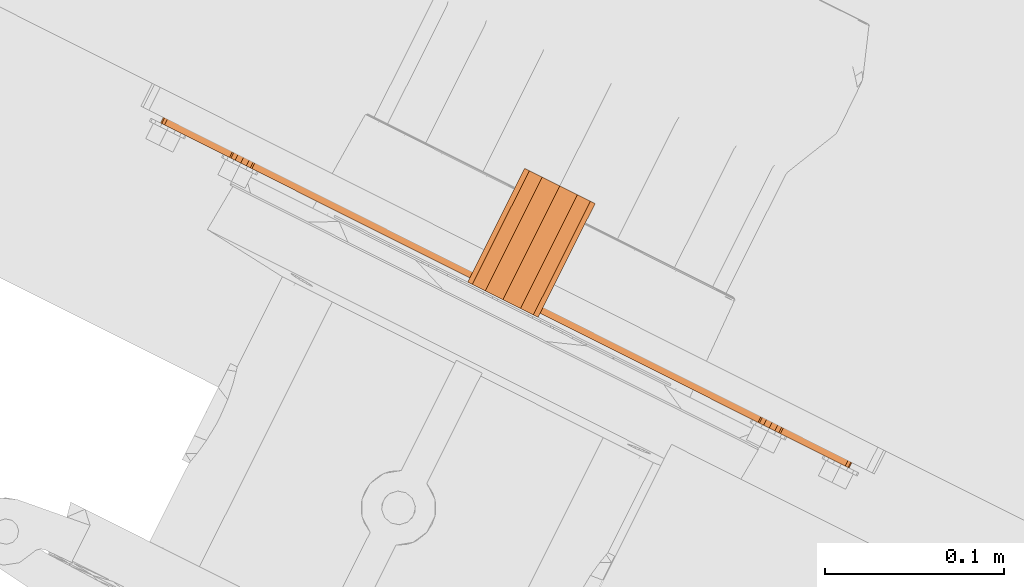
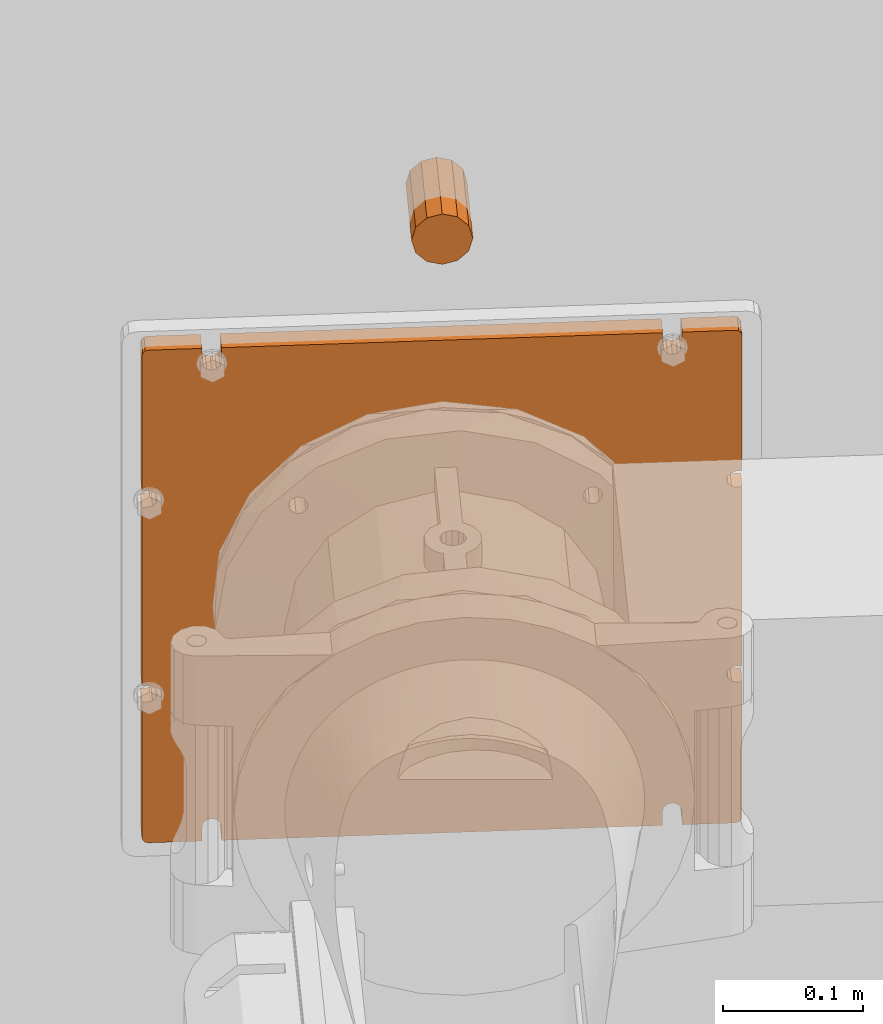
# One storey, part 190 of 206: 2 proxies.
"""IFC2X3 building model written with IfcOpenShell, lengths in metres."""

from ifc_helpers import new_model, si_unit, derived_unit, direction, frame, origin, place, context, subcontext, project, spatial, faceted_brep, source, transform, mapped, material, type_object, type_shapes, element, save


model = new_model("IFC2X3")

# Units and contexts
model_context = context("Model", 3, precision=5.2338327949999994e-05, world=origin(), true_north=direction((0.0, 1.0)))
body_context = subcontext(model_context, "Body", "Model", "MODEL_VIEW")
ifc_project = project(units=[si_unit("LENGTHUNIT", "METRE"), si_unit("AREAUNIT", "SQUARE_METRE"), si_unit("VOLUMEUNIT", "CUBIC_METRE"), si_unit("MASSUNIT", "GRAM", prefix="KILO"), si_unit("PLANEANGLEUNIT", "RADIAN"), derived_unit("THERMALTRANSMITTANCEUNIT", [(si_unit("MASSUNIT", "GRAM", prefix="KILO"), 1), (si_unit("THERMODYNAMICTEMPERATUREUNIT", "KELVIN"), -1), (si_unit("TIMEUNIT", "SECOND"), -3)])], contexts=[model_context])

# Site, building, storey
site_placement = place(None, frame((0.0, 0.0, 0.0), z_axis=(0.0, 0.0, 1.0), x_axis=(0.8939966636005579, -0.4480736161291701, 0.0)))
site = spatial("IfcSite", under=ifc_project, at=site_placement, Name="Default", CompositionType="ELEMENT")
building_placement = place(site_placement, origin())
building = spatial("IfcBuilding", under=site, at=building_placement, CompositionType="ELEMENT")
storey_placement = place(building_placement, origin())
storey = spatial("IfcBuildingStorey", under=building, at=storey_placement, Name="Erdgeschoss", CompositionType="ELEMENT", Elevation=0.0)

# Proxies
ifc_material = material(Name="IfcSurfaceStyle #624876")
building_element_proxy_type_1 = type_object("IfcBuildingElementProxyType", Name="BuildingElementProxy 115:BuildingElementProxy 115", PredefinedType="NOTDEFINED", material=ifc_material)
shared_shape_1 = source(origin(), body_context, "Body", "Brep", [
    faceted_brep([(21.650947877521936, 4.96053537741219, 1.0849999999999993), (21.653447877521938, 4.960535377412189, 1.0843301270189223), (21.650947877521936, 4.969371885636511, 1.084999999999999), (21.653447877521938, 4.978208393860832, 1.084330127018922), (21.650947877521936, 4.978208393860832, 1.0849999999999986), (21.65527800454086, 4.960535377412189, 1.0824999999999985), (21.655278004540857, 4.978208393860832, 1.0825000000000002), (21.655947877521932, 4.96053537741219, 1.08), (21.655947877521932, 4.969371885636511, 1.08), (21.655947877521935, 4.978208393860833, 1.0799999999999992), (21.65594787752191, 4.96053537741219, 0.9620000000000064), (21.65594787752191, 4.9693718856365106, 0.9620000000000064), (21.65594787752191, 4.978208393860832, 0.9620000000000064), (21.651774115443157, 4.96053537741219, 0.9620000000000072), (21.651774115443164, 4.9693718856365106, 0.962000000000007), (21.651774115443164, 4.978208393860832, 0.9620000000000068), (21.648274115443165, 4.96053537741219, 0.961062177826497), (21.648274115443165, 4.978208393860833, 0.9610621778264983), (21.64571193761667, 4.96053537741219, 0.9585000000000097), (21.645711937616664, 4.978208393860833, 0.9585000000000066), (21.64477411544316, 4.96053537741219, 0.955000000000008), (21.64477411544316, 4.978208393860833, 0.9550000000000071), (21.64571193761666, 4.96053537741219, 0.951500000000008), (21.645711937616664, 4.978208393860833, 0.9515000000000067), (21.648274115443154, 4.96053537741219, 0.9489378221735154), (21.648274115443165, 4.978208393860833, 0.9489378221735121), (21.651774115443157, 4.96053537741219, 0.9480000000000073), (21.651774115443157, 4.9693718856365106, 0.9480000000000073), (21.651774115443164, 4.978208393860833, 0.9480000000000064), (21.655947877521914, 4.96053537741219, 0.9480000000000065), (21.655947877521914, 4.969371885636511, 0.9480000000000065), (21.655947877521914, 4.978208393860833, 0.9480000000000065), (21.65594787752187, 4.96053537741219, 0.7920000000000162), (21.65594787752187, 4.9693718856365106, 0.7920000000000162), (21.655947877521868, 4.978208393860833, 0.7920000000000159), (21.65177411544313, 4.96053537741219, 0.7920000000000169), (21.65177411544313, 4.9693718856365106, 0.7920000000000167), (21.65177411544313, 4.978208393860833, 0.7920000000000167), (21.64827411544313, 4.96053537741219, 0.7910621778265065), (21.648274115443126, 4.978208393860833, 0.7910621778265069), (21.645711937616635, 4.96053537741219, 0.7885000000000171), (21.645711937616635, 4.978208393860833, 0.7885000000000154), (21.644774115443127, 4.96053537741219, 0.785000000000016), (21.644774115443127, 4.978208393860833, 0.7850000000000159), (21.645711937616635, 4.96053537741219, 0.7815000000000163), (21.645711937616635, 4.978208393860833, 0.7815000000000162), (21.648274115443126, 4.96053537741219, 0.7789378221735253), (21.648274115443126, 4.978208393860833, 0.7789378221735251), (21.65177411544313, 4.96053537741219, 0.7780000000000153), (21.65177411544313, 4.969371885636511, 0.7780000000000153), (21.651774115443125, 4.978208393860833, 0.7780000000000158), (21.65594787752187, 4.96053537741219, 0.7780000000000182), (21.65594787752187, 4.9693718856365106, 0.7780000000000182), (21.65594787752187, 4.978208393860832, 0.7780000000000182), (21.65594787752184, 4.960535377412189, 0.6600000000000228), (21.65594787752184, 4.969371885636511, 0.6600000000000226), (21.65594787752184, 4.978208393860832, 0.6600000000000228), (21.655278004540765, 4.960535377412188, 0.6575000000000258), (21.655278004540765, 4.978208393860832, 0.6575000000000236), (21.653447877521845, 4.96053537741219, 0.6556698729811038), (21.653447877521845, 4.978208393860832, 0.6556698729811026), (21.650947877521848, 4.96053537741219, 0.6550000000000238), (21.650947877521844, 4.969371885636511, 0.6550000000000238), (21.650947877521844, 4.978208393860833, 0.6550000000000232), (21.612947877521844, 4.960535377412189, 0.6550000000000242), (21.612947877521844, 4.969371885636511, 0.6550000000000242), (21.612947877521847, 4.978208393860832, 0.6550000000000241), (21.61294787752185, 4.96053537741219, 0.6671737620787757), (21.61294787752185, 4.969371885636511, 0.6671737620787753), (21.61294787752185, 4.978208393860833, 0.6671737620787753), (21.612010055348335, 4.96053537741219, 0.6706737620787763), (21.612010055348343, 4.978208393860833, 0.6706737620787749), (21.609447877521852, 4.96053537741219, 0.6732359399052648), (21.60944787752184, 4.978208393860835, 0.673235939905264), (21.605947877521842, 4.960535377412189, 0.6741737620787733), (21.605947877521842, 4.978208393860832, 0.6741737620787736), (21.602447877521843, 4.96053537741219, 0.6732359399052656), (21.60244787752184, 4.978208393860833, 0.673235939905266), (21.59988569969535, 4.96053537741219, 0.6706737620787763), (21.599885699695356, 4.978208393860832, 0.670673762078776), (21.59894787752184, 4.96053537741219, 0.6671737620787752), (21.59894787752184, 4.9693718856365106, 0.6671737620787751), (21.598947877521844, 4.978208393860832, 0.6671737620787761), (21.598947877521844, 4.960535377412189, 0.6550000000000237), (21.598947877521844, 4.969371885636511, 0.655000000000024), (21.598947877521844, 4.978208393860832, 0.6550000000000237), (21.282947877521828, 4.960535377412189, 0.655000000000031), (21.28294787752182, 4.9693718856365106, 0.6550000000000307), (21.282947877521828, 4.978208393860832, 0.6550000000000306), (21.282947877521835, 4.960535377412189, 0.6671737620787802), (21.282947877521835, 4.969371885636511, 0.6671737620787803), (21.282947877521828, 4.978208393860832, 0.6671737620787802), (21.282010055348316, 4.96053537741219, 0.670673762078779), (21.282010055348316, 4.978208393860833, 0.67067376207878), (21.27944787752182, 4.96053537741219, 0.6732359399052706), (21.27944787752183, 4.978208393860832, 0.6732359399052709), (21.275947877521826, 4.960535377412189, 0.6741737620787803), (21.275947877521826, 4.978208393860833, 0.674173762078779), (21.272447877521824, 4.960535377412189, 0.6732359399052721), (21.272447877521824, 4.978208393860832, 0.6732359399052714), (21.269885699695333, 4.96053537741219, 0.67067376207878), (21.269885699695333, 4.978208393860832, 0.6706737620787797), (21.268947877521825, 4.96053537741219, 0.6671737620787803), (21.268947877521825, 4.9693718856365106, 0.6671737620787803), (21.268947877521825, 4.978208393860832, 0.6671737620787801), (21.268947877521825, 4.96053537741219, 0.6550000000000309), (21.268947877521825, 4.9693718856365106, 0.6550000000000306), (21.268947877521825, 4.978208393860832, 0.6550000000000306), (21.23094787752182, 4.960535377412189, 0.65500000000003), (21.23094787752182, 4.9693718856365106, 0.65500000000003), (21.23094787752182, 4.978208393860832, 0.6550000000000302), (21.228447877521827, 4.96053537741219, 0.6556698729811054), (21.228447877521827, 4.978208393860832, 0.6556698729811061), (21.226617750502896, 4.960535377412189, 0.6575000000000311), (21.226617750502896, 4.978208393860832, 0.6575000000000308), (21.225947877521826, 4.96053537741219, 0.6600000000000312), (21.225947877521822, 4.9693718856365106, 0.6600000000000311), (21.225947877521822, 4.978208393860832, 0.6600000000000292), (21.225947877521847, 4.96053537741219, 0.778000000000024), (21.225947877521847, 4.969371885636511, 0.7780000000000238), (21.225947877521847, 4.978208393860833, 0.7780000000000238), (21.230121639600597, 4.960535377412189, 0.7780000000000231), (21.2301216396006, 4.9693718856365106, 0.7780000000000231), (21.2301216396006, 4.978208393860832, 0.7780000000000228), (21.2336216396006, 4.96053537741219, 0.7789378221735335), (21.233621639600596, 4.978208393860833, 0.7789378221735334), (21.236183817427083, 4.96053537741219, 0.7815000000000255), (21.236183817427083, 4.978208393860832, 0.7815000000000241), (21.2371216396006, 4.96053537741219, 0.7850000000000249), (21.2371216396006, 4.978208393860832, 0.7850000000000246), (21.23618381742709, 4.960535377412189, 0.7885000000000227), (21.236183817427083, 4.978208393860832, 0.7885000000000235), (21.23362163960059, 4.960535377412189, 0.7910621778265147), (21.233621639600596, 4.978208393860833, 0.791062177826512), (21.23012163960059, 4.960535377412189, 0.7920000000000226), (21.230121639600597, 4.969371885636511, 0.7920000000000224), (21.230121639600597, 4.978208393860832, 0.7920000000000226), (21.225947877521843, 4.960535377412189, 0.7920000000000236), (21.225947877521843, 4.969371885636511, 0.7920000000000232), (21.225947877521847, 4.978208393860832, 0.7920000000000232), (21.225947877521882, 4.960535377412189, 0.9480000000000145), (21.225947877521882, 4.969371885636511, 0.9480000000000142), (21.225947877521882, 4.978208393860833, 0.948000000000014), (21.23012163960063, 4.96053537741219, 0.9480000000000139), (21.23012163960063, 4.9693718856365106, 0.9480000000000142), (21.23012163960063, 4.978208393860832, 0.948000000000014), (21.233621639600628, 4.96053537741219, 0.9489378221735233), (21.233621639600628, 4.978208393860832, 0.9489378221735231), (21.23618381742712, 4.96053537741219, 0.9515000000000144), (21.23618381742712, 4.978208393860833, 0.9515000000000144), (21.237121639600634, 4.960535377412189, 0.955000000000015), (21.237121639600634, 4.978208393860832, 0.9550000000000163), (21.23618381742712, 4.96053537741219, 0.9585000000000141), (21.23618381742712, 4.978208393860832, 0.9585000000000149), (21.233621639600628, 4.960535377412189, 0.9610621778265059), (21.233621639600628, 4.978208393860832, 0.9610621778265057), (21.230121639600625, 4.960535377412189, 0.9620000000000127), (21.230121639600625, 4.9693718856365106, 0.9620000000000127), (21.230121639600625, 4.978208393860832, 0.9620000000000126), (21.225947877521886, 4.960535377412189, 0.9620000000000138), (21.225947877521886, 4.9693718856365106, 0.9620000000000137), (21.225947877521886, 4.978208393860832, 0.9620000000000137), (21.225947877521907, 4.96053537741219, 1.0800000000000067), (21.225947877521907, 4.9693718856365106, 1.0800000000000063), (21.225947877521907, 4.978208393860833, 1.0800000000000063), (21.226617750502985, 4.96053537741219, 1.0825000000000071), (21.22661775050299, 4.978208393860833, 1.082500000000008), (21.228447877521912, 4.960535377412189, 1.0843301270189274), (21.228447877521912, 4.978208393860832, 1.0843301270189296), (21.230947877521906, 4.960535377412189, 1.0850000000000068), (21.230947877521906, 4.9693718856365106, 1.0850000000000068), (21.230947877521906, 4.978208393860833, 1.0850000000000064), (21.268947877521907, 4.96053537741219, 1.085000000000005), (21.26894787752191, 4.9693718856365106, 1.0850000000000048), (21.26894787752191, 4.978208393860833, 1.085000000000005), (21.268947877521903, 4.960535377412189, 1.072826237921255), (21.268947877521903, 4.9693718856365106, 1.0728262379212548), (21.268947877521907, 4.978208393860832, 1.0728262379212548), (21.269885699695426, 4.96053537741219, 1.0693262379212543), (21.269885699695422, 4.978208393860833, 1.0693262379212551), (21.272447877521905, 4.960535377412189, 1.0667640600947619), (21.272447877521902, 4.978208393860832, 1.066764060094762), (21.27594787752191, 4.96053537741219, 1.0658262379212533), (21.27594787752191, 4.978208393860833, 1.0658262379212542), (21.279447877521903, 4.960535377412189, 1.0667640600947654), (21.27944787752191, 4.978208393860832, 1.0667640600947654), (21.282010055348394, 4.96053537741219, 1.0693262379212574), (21.282010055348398, 4.978208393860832, 1.0693262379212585), (21.282947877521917, 4.96053537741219, 1.0728262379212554), (21.28294787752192, 4.9693718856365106, 1.0728262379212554), (21.282947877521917, 4.978208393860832, 1.0728262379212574), (21.282947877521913, 4.96053537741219, 1.085000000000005), (21.282947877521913, 4.9693718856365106, 1.085000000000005), (21.282947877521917, 4.978208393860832, 1.0850000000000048), (21.59894787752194, 4.96053537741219, 1.0850000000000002), (21.59894787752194, 4.969371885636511, 1.0849999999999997), (21.59894787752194, 4.978208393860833, 1.0849999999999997), (21.598947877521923, 4.960535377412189, 1.0728262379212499), (21.598947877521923, 4.9693718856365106, 1.0728262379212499), (21.598947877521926, 4.978208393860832, 1.0728262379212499), (21.599885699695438, 4.96053537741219, 1.0693262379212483), (21.599885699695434, 4.978208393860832, 1.0693262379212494), (21.60244787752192, 4.96053537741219, 1.0667640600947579), (21.602447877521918, 4.978208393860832, 1.0667640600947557), (21.605947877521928, 4.960535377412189, 1.0658262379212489), (21.605947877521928, 4.978208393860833, 1.0658262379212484), (21.609447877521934, 4.96053537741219, 1.0667640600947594), (21.60944787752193, 4.978208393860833, 1.0667640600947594), (21.61201005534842, 4.96053537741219, 1.0693262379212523), (21.61201005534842, 4.978208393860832, 1.069326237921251), (21.61294787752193, 4.96053537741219, 1.0728262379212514), (21.61294787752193, 4.969371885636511, 1.0728262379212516), (21.61294787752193, 4.978208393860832, 1.0728262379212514), (21.61294787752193, 4.96053537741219, 1.0850000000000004), (21.61294787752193, 4.969371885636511, 1.0850000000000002), (21.61294787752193, 4.978208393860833, 1.0850000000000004)], [[[0, 1, 2]], [[2, 1, 3]], [[2, 3, 4]], [[1, 5, 3]], [[3, 5, 6]], [[7, 8, 5]], [[5, 8, 6]], [[8, 9, 6]], [[10, 11, 7]], [[7, 11, 8]], [[11, 12, 8]], [[8, 12, 9]], [[13, 14, 10]], [[10, 14, 11]], [[14, 15, 11]], [[11, 15, 12]], [[13, 16, 14]], [[14, 16, 17]], [[14, 17, 15]], [[16, 18, 17]], [[17, 18, 19]], [[18, 20, 19]], [[19, 20, 21]], [[20, 22, 21]], [[21, 22, 23]], [[22, 24, 23]], [[23, 24, 25]], [[26, 27, 24]], [[24, 27, 25]], [[27, 28, 25]], [[29, 30, 26]], [[26, 30, 27]], [[30, 31, 27]], [[27, 31, 28]], [[32, 33, 29]], [[29, 33, 30]], [[33, 34, 30]], [[30, 34, 31]], [[35, 36, 32]], [[32, 36, 33]], [[36, 37, 33]], [[33, 37, 34]], [[35, 38, 36]], [[36, 38, 39]], [[36, 39, 37]], [[38, 40, 39]], [[39, 40, 41]], [[40, 42, 41]], [[41, 42, 43]], [[42, 44, 43]], [[43, 44, 45]], [[44, 46, 45]], [[45, 46, 47]], [[48, 49, 46]], [[46, 49, 47]], [[49, 50, 47]], [[51, 52, 48]], [[48, 52, 49]], [[52, 53, 49]], [[49, 53, 50]], [[54, 55, 51]], [[51, 55, 52]], [[55, 56, 52]], [[52, 56, 53]], [[54, 57, 55]], [[55, 57, 58]], [[55, 58, 56]], [[57, 59, 58]], [[58, 59, 60]], [[61, 62, 59]], [[59, 62, 60]], [[62, 63, 60]], [[64, 65, 61]], [[61, 65, 62]], [[65, 66, 62]], [[62, 66, 63]], [[67, 68, 64]], [[64, 68, 65]], [[68, 69, 65]], [[65, 69, 66]], [[67, 70, 68]], [[68, 70, 71]], [[68, 71, 69]], [[70, 72, 71]], [[71, 72, 73]], [[72, 74, 73]], [[73, 74, 75]], [[74, 76, 75]], [[75, 76, 77]], [[76, 78, 77]], [[77, 78, 79]], [[80, 81, 78]], [[78, 81, 79]], [[81, 82, 79]], [[83, 84, 80]], [[80, 84, 81]], [[84, 85, 81]], [[81, 85, 82]], [[86, 87, 83]], [[83, 87, 84]], [[87, 88, 84]], [[84, 88, 85]], [[89, 90, 86]], [[86, 90, 87]], [[90, 91, 87]], [[87, 91, 88]], [[89, 92, 90]], [[90, 92, 93]], [[90, 93, 91]], [[92, 94, 93]], [[93, 94, 95]], [[94, 96, 95]], [[95, 96, 97]], [[96, 98, 97]], [[97, 98, 99]], [[98, 100, 99]], [[99, 100, 101]], [[102, 103, 100]], [[100, 103, 101]], [[103, 104, 101]], [[105, 106, 102]], [[102, 106, 103]], [[106, 107, 103]], [[103, 107, 104]], [[108, 109, 105]], [[105, 109, 106]], [[109, 110, 106]], [[106, 110, 107]], [[108, 111, 109]], [[109, 111, 112]], [[109, 112, 110]], [[111, 113, 112]], [[112, 113, 114]], [[115, 116, 113]], [[113, 116, 114]], [[116, 117, 114]], [[118, 119, 115]], [[115, 119, 116]], [[119, 120, 116]], [[116, 120, 117]], [[121, 122, 118]], [[118, 122, 119]], [[122, 123, 119]], [[119, 123, 120]], [[121, 124, 122]], [[122, 124, 125]], [[122, 125, 123]], [[124, 126, 125]], [[125, 126, 127]], [[126, 128, 127]], [[127, 128, 129]], [[128, 130, 129]], [[129, 130, 131]], [[130, 132, 131]], [[131, 132, 133]], [[134, 135, 132]], [[132, 135, 133]], [[135, 136, 133]], [[137, 138, 134]], [[134, 138, 135]], [[138, 139, 135]], [[135, 139, 136]], [[140, 141, 137]], [[137, 141, 138]], [[141, 142, 138]], [[138, 142, 139]], [[143, 144, 140]], [[140, 144, 141]], [[144, 145, 141]], [[141, 145, 142]], [[143, 146, 144]], [[144, 146, 147]], [[144, 147, 145]], [[146, 148, 147]], [[147, 148, 149]], [[148, 150, 149]], [[149, 150, 151]], [[150, 152, 151]], [[151, 152, 153]], [[152, 154, 153]], [[153, 154, 155]], [[156, 157, 154]], [[154, 157, 155]], [[157, 158, 155]], [[159, 160, 156]], [[156, 160, 157]], [[160, 161, 157]], [[157, 161, 158]], [[162, 163, 159]], [[159, 163, 160]], [[163, 164, 160]], [[160, 164, 161]], [[162, 165, 163]], [[163, 165, 166]], [[163, 166, 164]], [[165, 167, 166]], [[166, 167, 168]], [[169, 170, 167]], [[167, 170, 168]], [[170, 171, 168]], [[172, 173, 169]], [[169, 173, 170]], [[173, 174, 170]], [[170, 174, 171]], [[175, 176, 172]], [[172, 176, 173]], [[176, 177, 173]], [[173, 177, 174]], [[175, 178, 176]], [[176, 178, 179]], [[176, 179, 177]], [[178, 180, 179]], [[179, 180, 181]], [[180, 182, 181]], [[181, 182, 183]], [[182, 184, 183]], [[183, 184, 185]], [[184, 186, 185]], [[185, 186, 187]], [[188, 189, 186]], [[186, 189, 187]], [[189, 190, 187]], [[191, 192, 188]], [[188, 192, 189]], [[192, 193, 189]], [[189, 193, 190]], [[194, 195, 191]], [[191, 195, 192]], [[195, 196, 192]], [[192, 196, 193]], [[197, 198, 194]], [[194, 198, 195]], [[198, 199, 195]], [[195, 199, 196]], [[197, 200, 198]], [[198, 200, 201]], [[198, 201, 199]], [[200, 202, 201]], [[201, 202, 203]], [[202, 204, 203]], [[203, 204, 205]], [[204, 206, 205]], [[205, 206, 207]], [[206, 208, 207]], [[207, 208, 209]], [[210, 211, 208]], [[208, 211, 209]], [[211, 212, 209]], [[213, 214, 210]], [[210, 214, 211]], [[214, 215, 211]], [[211, 215, 212]], [[0, 2, 213]], [[213, 2, 214]], [[2, 4, 214]], [[214, 4, 215]], [[215, 4, 212]], [[212, 4, 9]], [[212, 9, 209]], [[209, 9, 207]], [[4, 3, 9]], [[9, 3, 6]], [[12, 15, 9]], [[9, 15, 207]], [[15, 17, 207]], [[207, 17, 205]], [[17, 19, 205]], [[205, 19, 203]], [[19, 21, 203]], [[203, 21, 201]], [[85, 88, 82]], [[82, 88, 91]], [[82, 91, 79]], [[79, 91, 93]], [[79, 93, 43]], [[43, 93, 129]], [[43, 129, 41]], [[41, 129, 131]], [[41, 131, 23]], [[23, 131, 149]], [[23, 149, 21]], [[21, 149, 151]], [[21, 151, 201]], [[201, 151, 187]], [[201, 187, 199]], [[199, 187, 190]], [[199, 190, 196]], [[196, 190, 193]], [[23, 25, 41]], [[41, 25, 39]], [[25, 28, 39]], [[39, 28, 37]], [[28, 31, 37]], [[37, 31, 34]], [[79, 43, 77]], [[77, 43, 45]], [[77, 45, 75]], [[75, 45, 47]], [[75, 47, 73]], [[73, 47, 50]], [[73, 50, 56]], [[56, 50, 53]], [[58, 63, 56]], [[56, 63, 69]], [[56, 69, 71]], [[58, 60, 63]], [[63, 66, 69]], [[71, 73, 56]], [[93, 95, 129]], [[129, 95, 127]], [[95, 97, 127]], [[127, 97, 125]], [[97, 99, 125]], [[125, 99, 123]], [[123, 99, 117]], [[117, 99, 101]], [[117, 101, 104]], [[107, 110, 104]], [[104, 110, 117]], [[112, 114, 110]], [[110, 114, 117]], [[117, 120, 123]], [[131, 133, 149]], [[149, 133, 147]], [[133, 136, 147]], [[147, 136, 145]], [[136, 139, 145]], [[145, 139, 142]], [[187, 151, 185]], [[185, 151, 153]], [[185, 153, 183]], [[183, 153, 155]], [[183, 155, 181]], [[181, 155, 158]], [[181, 158, 164]], [[164, 158, 161]], [[166, 168, 164]], [[164, 168, 171]], [[164, 171, 177]], [[177, 171, 174]], [[177, 179, 164]], [[164, 179, 181]], [[5, 1, 7]], [[7, 1, 0]], [[7, 0, 210]], [[210, 0, 213]], [[210, 208, 7]], [[7, 208, 206]], [[7, 206, 13]], [[13, 206, 16]], [[206, 204, 16]], [[16, 204, 18]], [[204, 202, 18]], [[18, 202, 20]], [[202, 200, 20]], [[20, 200, 186]], [[20, 186, 150]], [[150, 186, 184]], [[150, 184, 152]], [[152, 184, 182]], [[152, 182, 154]], [[154, 182, 180]], [[154, 180, 156]], [[156, 180, 162]], [[156, 162, 159]], [[186, 200, 188]], [[188, 200, 197]], [[188, 197, 191]], [[191, 197, 194]], [[180, 178, 162]], [[162, 178, 175]], [[162, 175, 169]], [[169, 175, 172]], [[169, 167, 162]], [[162, 167, 165]], [[20, 150, 22]], [[22, 150, 148]], [[22, 148, 40]], [[40, 148, 130]], [[40, 130, 42]], [[42, 130, 128]], [[42, 128, 78]], [[78, 128, 92]], [[78, 92, 80]], [[80, 92, 89]], [[80, 89, 83]], [[83, 89, 86]], [[148, 146, 130]], [[130, 146, 132]], [[146, 143, 132]], [[132, 143, 134]], [[143, 140, 134]], [[134, 140, 137]], [[92, 128, 94]], [[94, 128, 126]], [[94, 126, 96]], [[96, 126, 124]], [[96, 124, 98]], [[98, 124, 121]], [[98, 121, 115]], [[115, 121, 118]], [[113, 108, 115]], [[115, 108, 102]], [[115, 102, 100]], [[113, 111, 108]], [[108, 105, 102]], [[100, 98, 115]], [[78, 76, 42]], [[42, 76, 44]], [[76, 74, 44]], [[44, 74, 46]], [[74, 72, 46]], [[46, 72, 48]], [[48, 72, 54]], [[54, 72, 70]], [[54, 70, 67]], [[64, 61, 67]], [[67, 61, 54]], [[59, 57, 61]], [[61, 57, 54]], [[54, 51, 48]], [[40, 38, 22]], [[22, 38, 24]], [[38, 35, 24]], [[24, 35, 26]], [[35, 32, 26]], [[26, 32, 29]], [[13, 10, 7]]]),
])
type_shapes(building_element_proxy_type_1, [shared_shape_1])
proxy_1_placement = place(storey_placement, origin())
element("IfcBuildingElementProxy", 1, at=proxy_1_placement, inside=storey, type_object=building_element_proxy_type_1, material=ifc_material, Name="BuildingElementProxy 115", context=body_context, shape_type="MappedRepresentation", body=[
    mapped(shared_shape_1, transform((0.0, 0.0, 0.0), scale=1.0)),
])
building_element_proxy_type_2 = type_object("IfcBuildingElementProxyType", Name="BuildingElementProxy 121:BuildingElementProxy 121", PredefinedType="NOTDEFINED", material=ifc_material)
shared_shape_2 = source(origin(), body_context, "Body", "Brep", [
    faceted_brep([(21.460000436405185, 4.957958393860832, 1.164000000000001), (21.462947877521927, 5.02895839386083, 1.1750000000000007), (21.462947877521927, 4.957958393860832, 1.175000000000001), (21.46000043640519, 5.028958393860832, 1.1859999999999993), (21.46000043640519, 4.957958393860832, 1.1860000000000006), (21.451947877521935, 5.02895839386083, 1.1940525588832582), (21.45194787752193, 4.957958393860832, 1.1940525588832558), (21.44094787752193, 5.02895839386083, 1.196999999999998), (21.44094787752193, 4.957958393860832, 1.1969999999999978), (21.429947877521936, 5.02895839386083, 1.194052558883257), (21.429947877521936, 4.957958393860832, 1.1940525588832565), (21.42189531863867, 5.02895839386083, 1.186000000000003), (21.42189531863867, 4.957958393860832, 1.186000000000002), (21.41894787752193, 5.02895839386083, 1.175), (21.41894787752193, 4.957958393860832, 1.1750000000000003), (21.42189531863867, 5.02895839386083, 1.1639999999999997), (21.421895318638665, 4.957958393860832, 1.1639999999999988), (21.429947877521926, 5.02895839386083, 1.1559474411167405), (21.429947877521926, 4.957958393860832, 1.155947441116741), (21.440947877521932, 5.0289583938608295, 1.1529999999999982), (21.440947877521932, 4.957958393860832, 1.1529999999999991), (21.45194787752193, 5.028958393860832, 1.1559474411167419), (21.45194787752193, 4.957958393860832, 1.1559474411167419), (21.46000043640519, 5.028958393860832, 1.1640000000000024)], [[[0, 1, 2]], [[2, 1, 3]], [[2, 3, 4]], [[4, 3, 5]], [[4, 5, 6]], [[6, 5, 7]], [[6, 7, 8]], [[8, 7, 9]], [[8, 9, 10]], [[10, 9, 11]], [[10, 11, 12]], [[12, 11, 13]], [[12, 13, 14]], [[14, 13, 15]], [[14, 15, 16]], [[16, 15, 17]], [[16, 17, 18]], [[18, 17, 19]], [[18, 19, 20]], [[20, 19, 21]], [[20, 21, 22]], [[22, 21, 23]], [[22, 23, 0]], [[0, 23, 1]], [[21, 17, 23]], [[23, 17, 15]], [[23, 15, 1]], [[1, 15, 13]], [[1, 13, 3]], [[3, 13, 11]], [[3, 11, 5]], [[5, 11, 9]], [[5, 9, 7]], [[21, 19, 17]], [[6, 10, 4]], [[4, 10, 12]], [[4, 12, 2]], [[2, 12, 14]], [[2, 14, 0]], [[0, 14, 16]], [[0, 16, 22]], [[22, 16, 18]], [[22, 18, 20]], [[6, 8, 10]]]),
])
type_shapes(building_element_proxy_type_2, [shared_shape_2])
proxy_2_placement = place(storey_placement, origin())
element("IfcBuildingElementProxy", 2, at=proxy_2_placement, inside=storey, type_object=building_element_proxy_type_2, material=ifc_material, Name="BuildingElementProxy 121", context=body_context, shape_type="MappedRepresentation", body=[
    mapped(shared_shape_2, transform((0.0, 0.0, 0.0), scale=1.0)),
])

save(model, "model.ifc")
